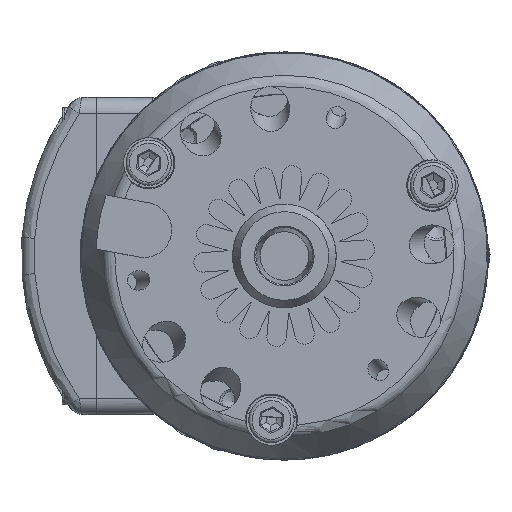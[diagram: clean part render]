
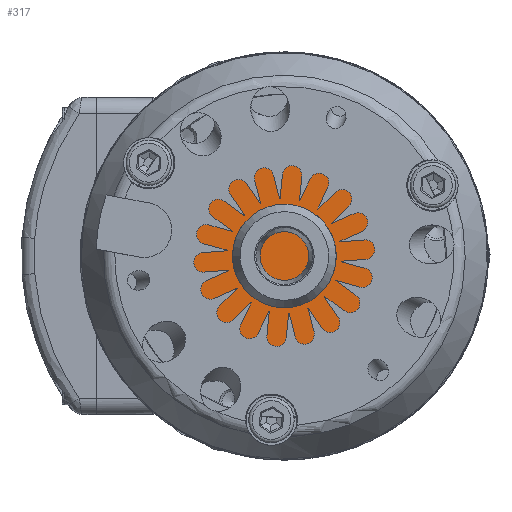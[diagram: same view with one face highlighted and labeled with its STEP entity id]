
A CAD part, front view. The second image highlights one B-rep face of the part: STEP entity #317.
In plain terms, the highlighted planar face has unit normal (0, -1, 0).
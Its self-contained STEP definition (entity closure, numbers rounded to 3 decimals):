
#317 = ADVANCED_FACE ( 'NONE', ( #49899 ), #27967, .F. ) ;
#12009 = CARTESIAN_POINT ( 'NONE',  ( 0., 54.7, 0. ) ) ;
#14330 = VERTEX_POINT ( 'NONE', #52320 ) ;
#14395 = ORIENTED_EDGE ( 'NONE', *, *, #46175, .T. ) ;
#15576 = DIRECTION ( 'NONE',  ( 1., 0., 0. ) ) ;
#23160 = CIRCLE ( 'NONE', #54578, 18.498 ) ;
#23214 = CARTESIAN_POINT ( 'NONE',  ( 0., 54.7, 18.498 ) ) ;
#27967 = PLANE ( 'NONE',  #43013 ) ;
#30500 = EDGE_LOOP ( 'NONE', ( #14395 ) ) ;
#40622 = DIRECTION ( 'NONE',  ( 0., 1., 0. ) ) ;
#43013 = AXIS2_PLACEMENT_3D ( 'NONE', #23214, #40622, #15576 ) ;
#46175 = EDGE_CURVE ( 'NONE', #14330, #14330, #23160, .T. ) ;
#49899 = FACE_OUTER_BOUND ( 'NONE', #30500, .T. ) ;
#50247 = DIRECTION ( 'NONE',  ( 0., -1., 0. ) ) ;
#52320 = CARTESIAN_POINT ( 'NONE',  ( -18.498, 54.7, 0. ) ) ;
#54578 = AXIS2_PLACEMENT_3D ( 'NONE', #12009, #50247, #54752 ) ;
#54752 = DIRECTION ( 'NONE',  ( -1., 0., 0. ) ) ;
